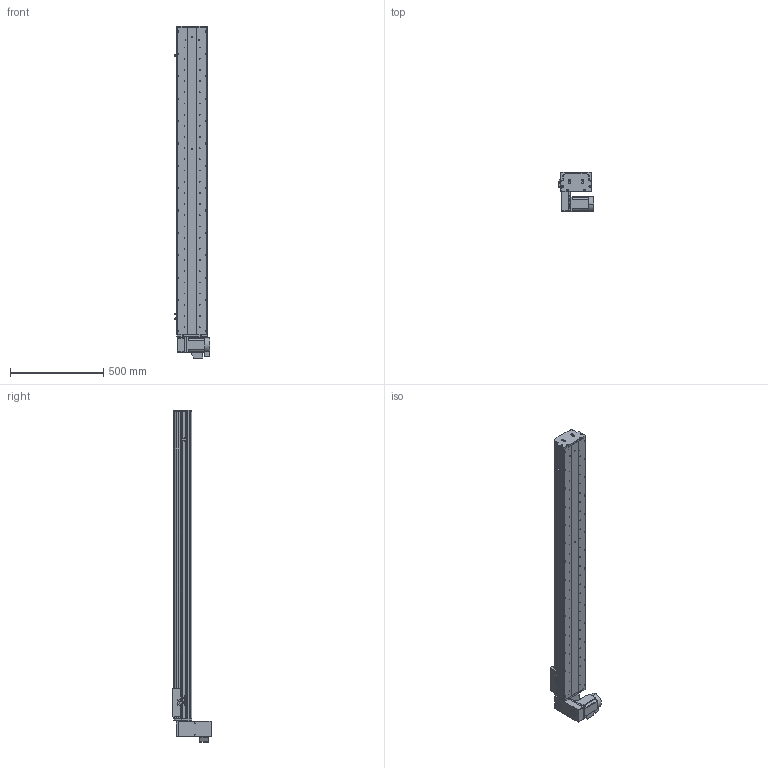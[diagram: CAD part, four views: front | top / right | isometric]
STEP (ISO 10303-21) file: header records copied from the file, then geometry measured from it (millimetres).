
FILE_DESCRIPTION (( 'STEP AP214' ), '1' );
FILE_NAME ('KSD165B-S1400-MLD-CM .STEP', '2017-10-16T07:27:28', ( '微软用户' ), ( '微软中国' ), 'SwSTEP 2.0', 'SolidWorks 2014', '' );
FILE_SCHEMA (( 'AUTOMOTIVE_DESIGN' ));
Length unit declared in the file: millimetre
Products named in the file (17): KSD165模组-同步带滑动座-最新版; KSD165B-S1400-MLD-CM ; 130宽模组马达安装板连板上下折丝杆同步带; 130宽模组保护罩上下左右折-同步带; HTPA26S5M250-A-H8 750W萇儂蚚; HTPA26S5M250-A-H8 400W萇儂蚚 ; 165宽马达安装板同步带左-改; KSD165模组-同步带防尘盖1-1400行程; KSD165模组同步带底板-1400行程; 拸秶雄ん750W侜督萇儂; U倰嫖萇假蚾璃; U倰嫖萇EEㄜSX672; 覜茼え68遵圉猾敕; KSD165模组-同步带-防撞垫2; KSD165模组同步带-防撞垫1; KSD165耀郪-ヶ傷啣1-肮祭湍; KSD165模组-后端板1-同步带
Assembly tree (20 placements, depth 2):
  KSD165B-S1400-MLD-CM 
    KSD165模组-同步带滑动座-最新版
    KSD165模组-后端板1-同步带
    KSD165耀郪-ヶ傷啣1-肮祭湍
    KSD165模组同步带-防撞垫1
    KSD165模组-同步带-防撞垫2
    覜茼え68遵圉猾敕
    U倰嫖萇EEㄜSX672  x3
    U倰嫖萇假蚾璃  x3
    拸秶雄ん750W侜督萇儂
    KSD165模组同步带底板-1400行程
    KSD165模组-同步带防尘盖1-1400行程
    165宽马达安装板同步带左-改
    HTPA26S5M250-A-H8 400W萇儂蚚 
    HTPA26S5M250-A-H8 750W萇儂蚚
    130宽模组保护罩上下左右折-同步带
    130宽模组马达安装板连板上下折丝杆同步带
Bounding box: 191.2 x 210 x 1781 mm (x, y, z)
Volume: 9723091.2 mm3; surface area: 2266085.3 mm2
Topology: 21 solids, 22 shells, 2033 faces, 5748 edges, 3756 vertices
Faces by surface type: cylinder 1325, plane 596, cone 112
Entity records: 66664 total; most frequent: CARTESIAN_POINT 13662, DIRECTION 10900, ORIENTED_EDGE 10156, EDGE_CURVE 5078, AXIS2_PLACEMENT_3D 4288, VERTEX_POINT 3348, CIRCLE 2452, LINE 2324
